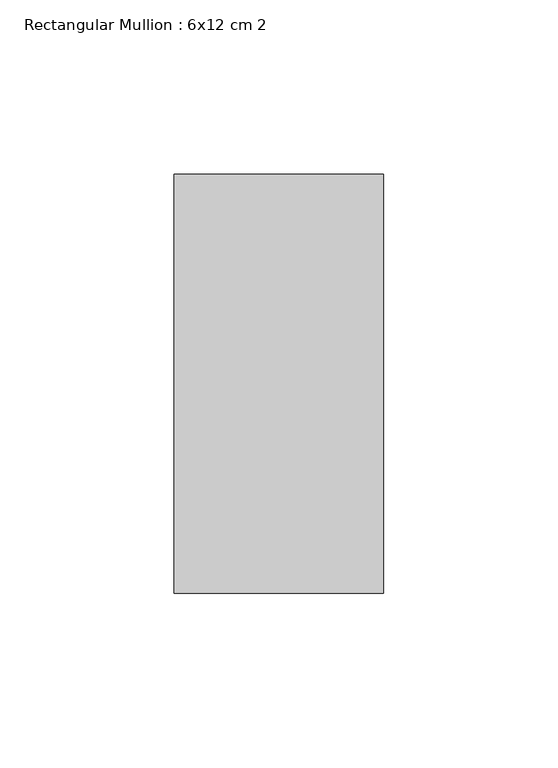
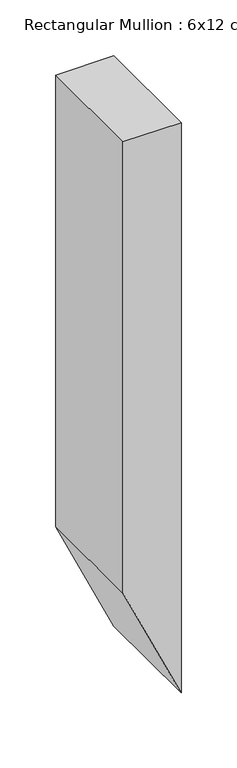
"""IFC4 building model written with IfcOpenShell, lengths in millimetres: member geometry, Rectangular Mullion : 6x12 cm 2."""

import ifcopenshell
import ifcopenshell.guid

model = None  # the IFC model being written
_history = None  # IfcOwnerHistory: only IFC2X3 demands one
_inside = {}  # id of a spatial element -> (the spatial element, [elements in it])
_under = {}  # id of a project, library or spatial element -> (it, [spatial elements below it])
_declared = {}  # id of a project -> (the project, [libraries it declares])
_typed = {}  # id of a type object -> (the type object, [elements of that type])
_made_of = {}  # id of a material, layer set ... -> (it, [elements and type objects made of it])


def new_model(schema):
    """Start an empty IFC model of exactly this schema.

    Asked for "IFC4X3", IfcOpenShell would pick the latest addendum, in which some entities
    have other attributes; the version numbers below select the first issue.
    IFC2X3 requires an IfcOwnerHistory on every rooted entity: one is made here for all.
    """
    global model, _history
    if schema == "IFC4X3":
        model = ifcopenshell.file(schema_version=(4, 3, 0, 0))
    else:
        model = ifcopenshell.file(schema=schema)
    _inside.clear()
    _under.clear()
    _declared.clear()
    _typed.clear()
    _made_of.clear()
    _history = None
    if model.schema == "IFC2X3":
        org = make("IfcOrganization", Name="unknown")
        user = make(
            "IfcPersonAndOrganization",
            ThePerson=make("IfcPerson", FamilyName="unknown"),
            TheOrganization=org,
        )
        app = make(
            "IfcApplication",
            ApplicationDeveloper=org,
            Version="unknown",
            ApplicationFullName="unknown",
            ApplicationIdentifier="unknown",
        )
        _history = make(
            "IfcOwnerHistory",
            OwningUser=user,
            OwningApplication=app,
            ChangeAction="ADDED",
            CreationDate=0,
        )
    return model


def make(cls, **values):
    """One entity of the class cls with the attributes given. An attribute that is None is left unset."""
    return model.create_entity(
        cls, **{name: value for name, value in values.items() if value is not None}
    )


def rooted(cls, **values):
    """An entity with a GlobalId (a new one), such as an element, a storey or a relation."""
    return make(cls, GlobalId=ifcopenshell.guid.new(), OwnerHistory=_history, **values)


def si_unit(unit_type, name, prefix=None):
    """IfcSIUnit, for example si_unit("LENGTHUNIT", "METRE", prefix="MILLI")."""
    return make("IfcSIUnit", UnitType=unit_type, Prefix=prefix, Name=name)


def assignment(units):
    """IfcUnitAssignment: the units of a project."""
    return None if units is None else make("IfcUnitAssignment", Units=units)


def point(xyz):
    """IfcCartesianPoint."""
    return None if xyz is None else make("IfcCartesianPoint", Coordinates=xyz)


def direction(xyz):
    """IfcDirection."""
    return None if xyz is None else make("IfcDirection", DirectionRatios=xyz)


def frame(location, z_axis=None, x_axis=None):
    """IfcAxis2Placement3D, a coordinate frame: its origin and axes. An axis left out is left unset."""
    return make(
        "IfcAxis2Placement3D",
        Location=point(location),
        Axis=direction(z_axis),
        RefDirection=direction(x_axis),
    )


def origin():
    """The frame at (0, 0, 0) with its axes left unset."""
    return frame((0.0, 0.0, 0.0))


def place(relative_to, where):
    """IfcLocalPlacement: puts the frame where relative to a parent placement (None: the world)."""
    return make(
        "IfcLocalPlacement", PlacementRelTo=relative_to, RelativePlacement=where
    )


def context(
    kind, dimensions, precision=None, world=None, true_north=None, identifier=None
):
    """IfcGeometricRepresentationContext, for example the 3D "Model" context."""
    return make(
        "IfcGeometricRepresentationContext",
        ContextIdentifier=identifier,
        ContextType=kind,
        CoordinateSpaceDimension=dimensions,
        Precision=precision,
        WorldCoordinateSystem=world,
        TrueNorth=true_north,
    )


def project(units=None, contexts=None):
    """IfcProject with its units and contexts."""
    return rooted(
        "IfcProject",
        Name="project",
        RepresentationContexts=contexts,
        UnitsInContext=assignment(units),
    )


def spatial(cls, under=None, at=None, **own):
    """A site, building, storey or space (cls), placed at a placement, below another one or the project."""
    s = rooted(cls, ObjectPlacement=at, **own)
    if under is not None:
        _under.setdefault(under.id(), (under, []))[1].append(s)
    return s


def polyline(points):
    """IfcPolyline through the points."""
    return make("IfcPolyline", Points=[point(p) for p in points])


def outline(outer, holes=None, kind="AREA"):
    """IfcArbitraryClosedProfileDef: a profile drawn as a closed curve; with holes, ...WithVoids."""
    if holes is None:
        return make("IfcArbitraryClosedProfileDef", ProfileType=kind, OuterCurve=outer)
    return make(
        "IfcArbitraryProfileDefWithVoids",
        ProfileType=kind,
        OuterCurve=outer,
        InnerCurves=holes,
    )


def extrude(swept, where, along, depth):
    """IfcExtrudedAreaSolid: the profile swept, set in the frame where, extruded along a direction by depth."""
    return make(
        "IfcExtrudedAreaSolid",
        SweptArea=swept,
        Position=where,
        ExtrudedDirection=direction(along),
        Depth=depth,
    )


def shape(context_of_items, identifier, shape_type, items):
    """IfcShapeRepresentation: the items that make up one representation, for example the "Body"."""
    return make(
        "IfcShapeRepresentation",
        ContextOfItems=context_of_items,
        RepresentationIdentifier=identifier,
        RepresentationType=shape_type,
        Items=items,
    )


def source(mapping_origin, context_of_items, identifier, shape_type, items):
    """IfcRepresentationMap: a shape defined once, which mapped items show again and again."""
    return make(
        "IfcRepresentationMap",
        MappingOrigin=mapping_origin,
        MappedRepresentation=shape(context_of_items, identifier, shape_type, items),
    )


def transform(
    local_origin,
    x_axis=None,
    y_axis=None,
    z_axis=None,
    scale=None,
    scale2=None,
    scale3=None,
    uniform=True,
):
    """IfcCartesianTransformationOperator3D, or its non-uniform kind. x_axis, y_axis, z_axis: its Axis1, 2, 3."""
    if uniform:
        return make(
            "IfcCartesianTransformationOperator3D",
            Axis1=direction(x_axis),
            Axis2=direction(y_axis),
            LocalOrigin=point(local_origin),
            Scale=scale,
            Axis3=direction(z_axis),
        )
    return make(
        "IfcCartesianTransformationOperator3DnonUniform",
        Axis1=direction(x_axis),
        Axis2=direction(y_axis),
        LocalOrigin=point(local_origin),
        Scale=scale,
        Axis3=direction(z_axis),
        Scale2=scale2,
        Scale3=scale3,
    )


def mapped(mapping_source, mapping_target):
    """IfcMappedItem: shows the shape of a source again, moved by a transform."""
    return make(
        "IfcMappedItem", MappingSource=mapping_source, MappingTarget=mapping_target
    )


def made_of(thing, what):
    """Note that an element or type object is made of a material, layer set ...; save() writes the relation."""
    if what is not None:
        _made_of.setdefault(what.id(), (what, []))[1].append(thing)
    return thing


def element(
    cls,
    number,
    at=None,
    inside=None,
    cuts=None,
    type_object=None,
    material=None,
    context=None,
    identifier="Body",
    shape_type=None,
    held_by="IfcProductDefinitionShape",
    body=None,
    shapes=None,
    **own,
):
    """One element of the class cls, such as IfcWall. Its Tag is "e" and its number.

    at: its placement. inside: the storey or other place that contains it. cuts: it is an
    opening in that element (IfcRelVoidsElement). A single representation is given by context,
    identifier, shape_type and body (its items); several are given by shapes. held_by: the class
    of the entity that holds the representations. save() writes the other relations.
    """
    e = rooted(cls, Tag="e%d" % number, ObjectPlacement=at, **own)
    if body is not None:
        shapes = [shape(context, identifier, shape_type, body)]
    if shapes is not None:
        e.Representation = make(held_by, Representations=shapes)
    if inside is not None:
        _inside.setdefault(inside.id(), (inside, []))[1].append(e)
    if cuts is not None:
        rooted(
            "IfcRelVoidsElement", RelatingBuildingElement=cuts, RelatedOpeningElement=e
        )
    if type_object is not None:
        _typed.setdefault(type_object.id(), (type_object, []))[1].append(e)
    return made_of(e, material)


def aggregate(whole, parts):
    """IfcRelAggregates: a whole, such as a stair, and the parts it consists of."""
    return rooted("IfcRelAggregates", RelatingObject=whole, RelatedObjects=parts)


def save(model, path):
    """Write the relations noted so far, then the file.

    IfcRelAggregates (storeys below a building ...), IfcRelContainedInSpatialStructure (elements
    in a storey), IfcRelDefinesByType, IfcRelAssociatesMaterial and IfcRelDeclares: one each for
    every whole, place, type object, material and project.
    """
    for whole, parts in _under.values():
        aggregate(whole, parts)
    for where, things in _inside.values():
        rooted(
            "IfcRelContainedInSpatialStructure",
            RelatedElements=things,
            RelatingStructure=where,
        )
    for kind, things in _typed.values():
        rooted("IfcRelDefinesByType", RelatedObjects=things, RelatingType=kind)
    for what, things in _made_of.values():
        rooted("IfcRelAssociatesMaterial", RelatedObjects=things, RelatingMaterial=what)
    for by, libraries in _declared.values():
        rooted("IfcRelDeclares", RelatingContext=by, RelatedDefinitions=libraries)
    model.write(path)


def rectangular_mullion_6x12_cm_2_2e00f76b(model_context):
    return source(origin(), model_context, "Body", "SweptSolid", [
        extrude(outline(polyline([(0.0, 0.0), (0.0, -60.0), (-493.2037875, -60.0), (-622.7603381, 0.0), (0.0, 0.0)])), frame((0.0, 85.0, 0.0), z_axis=(0.0, 1.0, 0.0), x_axis=(0.0, 0.0, 1.0)), (0.0, 0.0, 1.0), 120.0),
    ])


if __name__ == "__main__":
    model = new_model("IFC4")
    model_context = context("Model", 3, world=origin())
    ifc_project = project(units=[si_unit("LENGTHUNIT", "METRE", prefix="MILLI")], contexts=[model_context])
    site = spatial("IfcSite", under=ifc_project)
    building = spatial("IfcBuilding", under=site)
    placement = place(None, origin())
    rectangular_mullion_6x12_cm_2_shape = rectangular_mullion_6x12_cm_2_2e00f76b(model_context)
    element("IfcMember", 1, ObjectType="Rectangular Mullion : 6x12 cm 2", at=placement, inside=building, context=model_context, shape_type="MappedRepresentation", body=[
        mapped(rectangular_mullion_6x12_cm_2_shape, transform((0.0, 0.0, 0.0), x_axis=(1.0, 0.0, 0.0), y_axis=(0.0, 1.0, 0.0), z_axis=(0.0, 0.0, 1.0))),
    ])
    save(model, "model.ifc")
